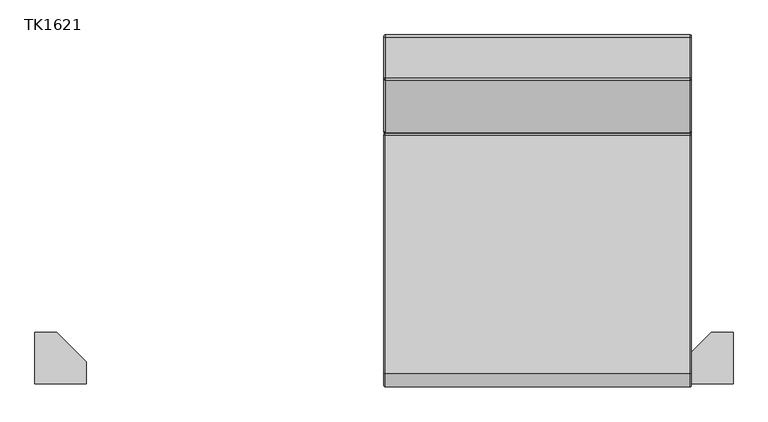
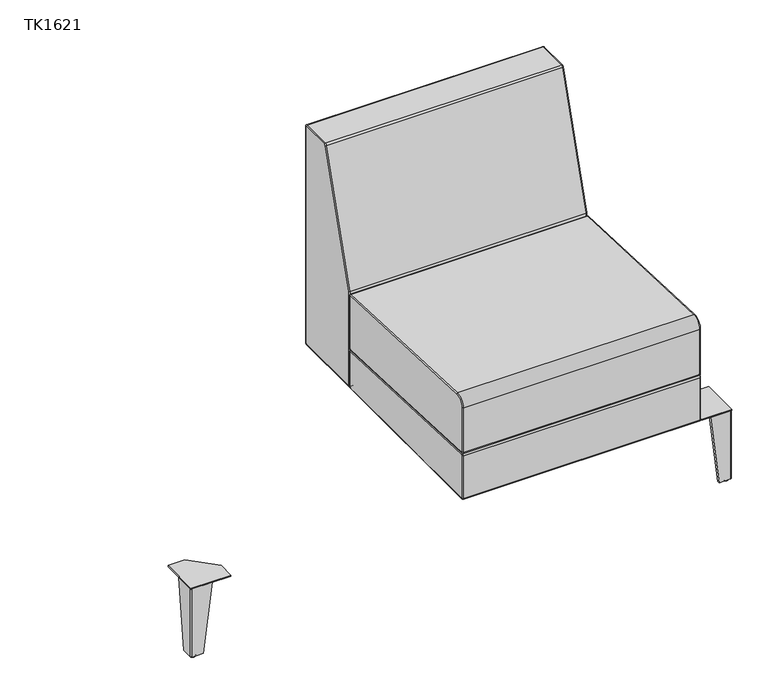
"""IFC4 building model written with IfcOpenShell, lengths in millimetres: furniture geometry, JSI-Teekan-Two_Seat_Lounge : TK1621."""

from ifc_helpers import new_model, si_unit, point, frame, origin, place, context, project, spatial, polyline, circle_curve, ellipse_curve, trimmed, outline, extrude, source, transform, mapped, element, save
from ifc_brep_helpers import plane_surface, cylinder_surface, revolved_surface, spline_surface, advanced_brep


def tk1621_2512d733(model_context):
    return source(origin(), model_context, "Body", "SolidModel", [
        advanced_brep(
        [(607.21875, 148.7693192, 295.6513391), (607.21875, 153.733973, 300.4095468), (609.6, 151.352723, 300.4095468), (609.6, 148.8703961, 298.0304429), (2.38125, 148.7693192, 295.6513391), (2.38125, 153.733973, 300.4095468), (0.0, 148.8703961, 298.0304429), (0.0, 151.352723, 300.4095468), (609.6, -344.5512855, 318.9936072), (607.21875, -344.6523625, 316.6145034), (2.38125, -344.6523625, 316.6145034), (0.0, -344.5512855, 318.9936072), (607.21875, -322.7527962, 467.50355), (609.6, -322.8538731, 465.1244462), (609.6, 149.0725499, 445.0745142), (607.21875, 149.1736269, 447.4536181), (2.38125, 149.1736269, 447.4536181), (2.38125, -322.7527962, 467.50355), (0.0, 149.0725499, 445.0745142), (0.0, -322.8538731, 465.1244462), (609.6, 151.352723, 442.6954104), (607.21875, 153.733973, 442.6954104), (2.38125, 153.733973, 442.6954104), (0.0, 151.352723, 442.6954104), (609.6, -346.8497, 321.3917439), (607.21875, -349.23095, 321.3917439), (2.38125, -349.23095, 321.3917439), (0.0, -346.8497, 321.3917439), (609.6, -346.8497, 442.1264425), (607.21875, -349.23095, 442.1264425), (2.38125, -349.23095, 442.1264425), (0.0, -346.8497, 442.1264425)],
        [
            (0, 1, circle_curve(frame((607.21875, 148.971473, 300.4095468), z_axis=(1.0, 0.0, 0.0), x_axis=(0.0, 1.0, 0.0)), 4.7625)),
            (1, 2, circle_curve(frame((607.21875, 151.352723, 300.4095468), z_axis=(0.0, 0.0, -1.0), x_axis=(1.0, 0.0, 0.0)), 2.38125)),
            (2, 3, circle_curve(frame((609.6, 148.971473, 300.4095468), z_axis=(-1.0, 0.0, 0.0), x_axis=(0.0, 1.0, 0.0)), 2.38125)),
            (3, 0, circle_curve(frame((607.21875, 148.8703961, 298.0304429), z_axis=(0.0, 0.9990987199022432, -0.04244700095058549), x_axis=(1.0, 0.0, 0.0)), 2.38125)),
            (0, 4),
            (4, 5, circle_curve(frame((2.38125, 148.971473, 300.4095468), z_axis=(1.0, 0.0, 0.0), x_axis=(0.0, 1.0, 0.0)), 4.7625)),
            (5, 1),
            (4, 6, circle_curve(frame((2.38125, 148.8703961, 298.0304429), z_axis=(0.0, 0.9990987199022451, -0.0424470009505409), x_axis=(1.0, 0.0, 0.0)), 2.38125)),
            (6, 7, circle_curve(frame((0.0, 148.971473, 300.4095468), z_axis=(1.0, 0.0, 0.0), x_axis=(0.0, 1.0, 0.0)), 2.38125)),
            (7, 5, circle_curve(frame((2.38125, 151.352723, 300.4095468), z_axis=(0.0, 0.0, -1.0), x_axis=(1.0, 0.0, 0.0)), 2.38125)),
            (3, 8),
            (8, 9, circle_curve(frame((607.21875, -344.5512855, 318.9936072), z_axis=(0.0, 0.9990987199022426, -0.04244700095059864), x_axis=(1.0, 0.0, 0.0)), 2.38125)),
            (9, 0),
            (9, 10),
            (10, 4),
            (10, 11, circle_curve(frame((2.38125, -344.5512855, 318.9936072), z_axis=(0.0, 0.9990987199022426, -0.04244700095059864), x_axis=(1.0, 0.0, 0.0)), 2.38125)),
            (11, 6),
            (12, 13, circle_curve(frame((607.21875, -322.8538731, 465.1244462), z_axis=(0.0, 0.9990987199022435, -0.0424470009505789), x_axis=(1.0, 0.0, 0.0)), 2.38125)),
            (13, 14),
            (14, 15, circle_curve(frame((607.21875, 149.0725499, 445.0745142), z_axis=(0.0, -0.9990987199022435, 0.0424470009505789), x_axis=(1.0, 0.0, 0.0)), 2.38125)),
            (15, 12),
            (15, 16),
            (16, 17),
            (17, 12),
            (16, 18, circle_curve(frame((2.38125, 149.0725499, 445.0745142), z_axis=(0.0, -0.9990987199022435, 0.0424470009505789), x_axis=(1.0, 0.0, 0.0)), 2.38125)),
            (18, 19),
            (19, 17, circle_curve(frame((2.38125, -322.8538731, 465.1244462), z_axis=(0.0, 0.9990987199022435, -0.0424470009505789), x_axis=(1.0, 0.0, 0.0)), 2.38125)),
            (14, 20, circle_curve(frame((609.6, 148.971473, 442.6954104), z_axis=(-1.0, 0.0, 0.0), x_axis=(0.0, 0.04244700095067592, 0.9990987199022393)), 2.38125)),
            (20, 21, circle_curve(frame((607.21875, 151.352723, 442.6954104), z_axis=(0.0, 0.0, 0.9999999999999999), x_axis=(1.0, 0.0, 0.0)), 2.38125)),
            (21, 15, circle_curve(frame((607.21875, 148.971473, 442.6954104), z_axis=(1.0, 0.0, 0.0), x_axis=(0.0, 0.04244700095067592, 0.9990987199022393)), 4.7625)),
            (21, 22),
            (22, 16, circle_curve(frame((2.38125, 148.971473, 442.6954104), z_axis=(1.0, 0.0, 0.0), x_axis=(0.0, 0.04244700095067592, 0.9990987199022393)), 4.7625)),
            (22, 23, circle_curve(frame((2.38125, 151.352723, 442.6954104), z_axis=(0.0, 0.0, 0.9999999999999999), x_axis=(1.0, 0.0, 0.0)), 2.38125)),
            (23, 18, circle_curve(frame((0.0, 148.971473, 442.6954104), z_axis=(1.0, 0.0, 0.0), x_axis=(0.0, 0.04244700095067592, 0.9990987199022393)), 2.38125)),
            (1, 21),
            (20, 2),
            (5, 22),
            (7, 23),
            (8, 24, circle_curve(frame((609.6, -344.4494, 321.3917439), z_axis=(-1.0, 0.0, 0.0), x_axis=(0.0, -0.04244700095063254, -0.9990987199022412)), 2.4003)),
            (24, 25, circle_curve(frame((607.21875, -346.8497, 321.3917439), z_axis=(0.0, 0.0, -1.0), x_axis=(1.0, 0.0, 0.0)), 2.38125)),
            (25, 9, circle_curve(frame((607.21875, -344.4494, 321.3917439), z_axis=(1.0, 0.0, 0.0), x_axis=(0.0, -0.04244700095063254, -0.9990987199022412)), 4.78155)),
            (25, 26),
            (26, 10, circle_curve(frame((2.38125, -344.4494, 321.3917439), z_axis=(1.0, 0.0, 0.0), x_axis=(0.0, -0.04244700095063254, -0.9990987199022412)), 4.78155)),
            (26, 27, circle_curve(frame((2.38125, -346.8497, 321.3917439), z_axis=(0.0, 0.0, -1.0), x_axis=(1.0, 0.0, 0.0)), 2.38125)),
            (27, 11, circle_curve(frame((0.0, -344.4494, 321.3917439), z_axis=(1.0, 0.0, 0.0), x_axis=(0.0, -0.04244700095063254, -0.9990987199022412)), 2.4003)),
            (24, 28),
            (28, 29, circle_curve(frame((607.21875, -346.8497, 442.1264425), z_axis=(0.0, 0.0, -1.0), x_axis=(1.0, 0.0, 0.0)), 2.38125)),
            (29, 25),
            (29, 30),
            (30, 26),
            (30, 31, circle_curve(frame((2.38125, -346.8497, 442.1264425), z_axis=(0.0, 0.0, -1.0), x_axis=(1.0, 0.0, 0.0)), 2.38125)),
            (31, 27),
            (13, 28, circle_curve(frame((609.6, -323.83095, 442.1264425), z_axis=(1.0, 0.0, 0.0), x_axis=(0.0, -1.0, 0.0)), 23.01875)),
            (12, 29, circle_curve(frame((607.21875, -323.83095, 442.1264425), z_axis=(1.0, 0.0, 0.0), x_axis=(0.0, -1.0, 0.0)), 25.4)),
            (17, 30, circle_curve(frame((2.38125, -323.83095, 442.1264425), z_axis=(1.0, 0.0, 0.0), x_axis=(0.0, -1.0, 0.0)), 25.4)),
            (19, 31, circle_curve(frame((0.0, -323.83095, 442.1264425), z_axis=(1.0, 0.0, 0.0), x_axis=(0.0, -1.0, 0.0)), 23.01875)),
        ],
        [
            revolved_surface(trimmed(ellipse_curve(frame((607.21875, 151.352723, 300.4095468), z_axis=(0.0, 0.0, 1.0), x_axis=(1.0, 0.0, 0.0)), 2.38125, 2.38125), [point((609.6, 151.352723, 300.4095468))], [point((607.21875, 153.733973, 300.4095468))], True, "CARTESIAN"), (304.8, 148.971473, 300.4095468), (-1.0, 0.0, 0.0)),
            cylinder_surface(frame((304.8, 148.971473, 300.4095468), z_axis=(-1.0, 0.0, 0.0), x_axis=(0.0, 1.0, 0.0)), 4.7625),
            revolved_surface(trimmed(ellipse_curve(frame((2.38125, 151.352723, 300.4095468), z_axis=(0.0, 0.0, 1.0), x_axis=(1.0, 0.0, 0.0)), 2.38125, 2.38125), [point((2.38125, 153.733973, 300.4095468))], [point((0.0, 151.352723, 300.4095468))], True, "CARTESIAN"), (304.8, 148.971473, 300.4095468), (-1.0, 0.0, 0.0)),
            cylinder_surface(frame((607.21875, 148.8703961, 298.0304429), z_axis=(0.0, 0.9990987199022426, -0.04244700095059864), x_axis=(1.0, 0.0, 0.0)), 2.38125),
            plane_surface(frame((607.21875, 148.7693192, 295.6513391), z_axis=(0.0, -0.04244700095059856, -0.9990987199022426), x_axis=(0.0, -0.9990987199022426, 0.04244700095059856))),
            cylinder_surface(frame((2.38125, 148.8703961, 298.0304429), z_axis=(0.0, 0.9990987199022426, -0.04244700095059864), x_axis=(1.0, 0.0, 0.0)), 2.38125),
            cylinder_surface(frame((607.21875, -322.8538731, 465.1244462), z_axis=(0.0, -0.9990987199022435, 0.0424470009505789), x_axis=(1.0, 0.0, 0.0)), 2.38125),
            plane_surface(frame((607.21875, -322.7527962, 467.50355), z_axis=(0.0, 0.04244700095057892, 0.9990987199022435), x_axis=(0.0, 0.9990987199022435, -0.04244700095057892))),
            cylinder_surface(frame((2.38125, -322.8538731, 465.1244462), z_axis=(0.0, -0.9990987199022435, 0.0424470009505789), x_axis=(1.0, 0.0, 0.0)), 2.38125),
            revolved_surface(trimmed(ellipse_curve(frame((607.21875, 149.0725499, 445.0745142), z_axis=(0.0, -0.9990987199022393, 0.04244700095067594), x_axis=(1.0, 0.0, 0.0)), 2.38125, 2.38125), [point((609.6, 149.0725499, 445.0745142))], [point((607.21875, 149.1736269, 447.4536181))], True, "CARTESIAN"), (304.8, 148.971473, 442.6954104), (-1.0, 0.0, 0.0)),
            cylinder_surface(frame((304.8, 148.971473, 442.6954104), z_axis=(-1.0, 0.0, 0.0), x_axis=(0.0, 0.04244700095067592, 0.9990987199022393)), 4.7625),
            revolved_surface(trimmed(ellipse_curve(frame((2.38125, 149.0725499, 445.0745142), z_axis=(0.0, -0.9990987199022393, 0.04244700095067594), x_axis=(1.0, 0.0, 0.0)), 2.38125, 2.38125), [point((2.38125, 149.1736269, 447.4536181))], [point((0.0, 149.0725499, 445.0745142))], True, "CARTESIAN"), (304.8, 148.971473, 442.6954104), (-1.0, 0.0, 0.0)),
            cylinder_surface(frame((607.21875, 151.352723, 442.6954104), z_axis=(0.0, 0.0, 1.0), x_axis=(1.0, 0.0, 0.0)), 2.38125),
            plane_surface(frame((607.21875, 153.733973, 442.6954104), z_axis=(0.0, 1.0, 0.0), x_axis=(0.0, 0.0, -1.0))),
            cylinder_surface(frame((2.38125, 151.352723, 442.6954104), z_axis=(0.0, 0.0, 1.0), x_axis=(1.0, 0.0, 0.0)), 2.38125),
            revolved_surface(trimmed(ellipse_curve(frame((607.21875, -344.5512855, 318.9936072), z_axis=(0.0, 0.9990987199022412, -0.042447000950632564), x_axis=(1.0, 0.0, 0.0)), 2.38125, 2.38125), [point((609.6, -344.5512855, 318.9936072))], [point((607.21875, -344.6523625, 316.6145034))], True, "CARTESIAN"), (304.8, -344.4494, 321.3917439), (-1.0, 0.0, 0.0)),
            cylinder_surface(frame((304.8, -344.4494, 321.3917439), z_axis=(-1.0, 0.0, 0.0), x_axis=(0.0, -0.04244700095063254, -0.9990987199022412)), 4.78155),
            revolved_surface(trimmed(ellipse_curve(frame((2.38125, -344.5512855, 318.9936072), z_axis=(0.0, 0.9990987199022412, -0.042447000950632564), x_axis=(1.0, 0.0, 0.0)), 2.38125, 2.38125), [point((2.38125, -344.6523625, 316.6145034))], [point((0.0, -344.5512855, 318.9936072))], True, "CARTESIAN"), (304.8, -344.4494, 321.3917439), (-1.0, 0.0, 0.0)),
            cylinder_surface(frame((607.21875, -346.8497, 321.3917439), z_axis=(0.0, 0.0, -1.0), x_axis=(1.0, 0.0, 0.0)), 2.38125),
            plane_surface(frame((607.21875, -349.23095, 321.3917439), z_axis=(0.0, -1.0, 0.0), x_axis=(0.0, 0.0, 1.0))),
            cylinder_surface(frame((2.38125, -346.8497, 321.3917439), z_axis=(0.0, 0.0, -1.0), x_axis=(1.0, 0.0, 0.0)), 2.38125),
            plane_surface(frame((609.6, -323.83095, 442.1264425), z_axis=(1.0, 0.0, 0.0), x_axis=(0.0, -1.0, 0.0))),
            revolved_surface(trimmed(ellipse_curve(frame((607.21875, -346.8497, 442.1264425), z_axis=(0.0, 0.0, -1.0), x_axis=(1.0, 0.0, 0.0)), 2.38125, 2.38125), [point((609.6, -346.8497, 442.1264425))], [point((607.21875, -349.23095, 442.1264425))], True, "CARTESIAN"), (304.8, -323.83095, 442.1264425), (-1.0, 0.0, 0.0)),
            cylinder_surface(frame((304.8, -323.83095, 442.1264425), z_axis=(-1.0, 0.0, 0.0), x_axis=(0.0, -1.0, 0.0)), 25.4),
            revolved_surface(trimmed(ellipse_curve(frame((2.38125, -346.8497, 442.1264425), z_axis=(0.0, 0.0, -1.0), x_axis=(1.0, 0.0, 0.0)), 2.38125, 2.38125), [point((2.38125, -349.23095, 442.1264425))], [point((0.0, -346.8497, 442.1264425))], True, "CARTESIAN"), (304.8, -323.83095, 442.1264425), (-1.0, 0.0, 0.0)),
            plane_surface(frame((0.0, -323.83095, 442.1264425), z_axis=(-1.0, 0.0, 0.0), x_axis=(0.0, -1.0, 0.0))),
        ],
        [
            (0, [[1, 2, 3, 4]]),
            (1, [[-1, 5, 6, 7]]),
            (2, [[-6, 8, 9, 10]]),
            (3, [[-4, 11, 12, 13]]),
            (4, [[-5, -13, 14, 15]]),
            (5, [[-8, -15, 16, 17]]),
            (6, [[18, 19, 20, 21]]),
            (7, [[-21, 22, 23, 24]]),
            (8, [[-23, 25, 26, 27]]),
            (9, [[-20, 28, 29, 30]]),
            (10, [[-22, -30, 31, 32]]),
            (11, [[-25, -32, 33, 34]]),
            (12, [[-2, 35, -29, 36]]),
            (13, [[-7, 37, -31, -35]]),
            (14, [[-10, 38, -33, -37]]),
            (15, [[-12, 39, 40, 41]]),
            (16, [[-14, -41, 42, 43]]),
            (17, [[-16, -43, 44, 45]]),
            (18, [[-40, 46, 47, 48]]),
            (19, [[-42, -48, 49, 50]]),
            (20, [[-44, -50, 51, 52]]),
            (21, [[-3, -36, -28, -19, 53, -46, -39, -11]]),
            (22, [[-18, 54, -47, -53]]),
            (23, [[-24, 55, -49, -54]]),
            (24, [[-27, 56, -51, -55]]),
            (25, [[-9, -17, -45, -52, -56, -26, -34, -38]]),
        ],
    ),
        advanced_brep(
        [(2.38125, -349.25, 197.5346851), (607.21875, -349.25, 197.5346851), (607.21875, -349.25, 311.8407029), (2.38125, -349.25, 311.8407029), (0.0, -346.86875, 311.8407029), (0.0, -346.86875, 197.5346851), (609.6, -346.86875, 197.5346851), (609.6, -346.86875, 311.8407029), (2.38125, -344.2853462, 316.5989106), (607.21875, -344.2853462, 316.5989106), (607.21875, 149.169864, 295.6343219), (2.38125, 149.169864, 295.6343219), (0.0, 149.0687871, 293.255218), (0.0, -344.3864231, 314.2198068), (609.6, -344.3864231, 314.2198068), (609.6, 149.0687871, 293.255218), (607.21875, 153.7302102, 290.8761142), (2.38125, 153.7302102, 290.8761142), (0.0, 151.3489602, 290.8761142), (609.6, 151.3489602, 290.8761142), (607.21875, 153.7302102, 197.5346851), (2.38125, 153.7302102, 197.5346851), (0.0, 151.3489602, 197.5346851), (609.6, 151.3489602, 197.5346851), (607.21875, 148.9677102, 192.7721851), (2.38125, 148.9677102, 192.7721851), (0.0, 148.9677102, 195.1534351), (609.6, 148.9677102, 195.1534351), (607.21875, -344.4875, 192.7721851), (2.38125, -344.4875, 192.7721851), (0.0, -344.4875, 195.1534351), (609.6, -344.4875, 195.1534351)],
        [
            (0, 1),
            (1, 2),
            (2, 3),
            (3, 0),
            (3, 4, circle_curve(frame((2.38125, -346.86875, 311.8407029), z_axis=(0.0, 0.0, -1.0), x_axis=(0.0, -1.0, 0.0)), 2.38125)),
            (4, 5),
            (5, 0, circle_curve(frame((2.38125, -346.86875, 197.5346851), z_axis=(0.0, 0.0, 1.0), x_axis=(0.0, -1.0, 0.0)), 2.38125)),
            (1, 6, circle_curve(frame((607.21875, -346.86875, 197.5346851), z_axis=(0.0, 0.0, 1.0), x_axis=(0.0, -1.0, 0.0)), 2.38125)),
            (6, 7),
            (7, 2, circle_curve(frame((607.21875, -346.86875, 311.8407029), z_axis=(0.0, 0.0, -1.0), x_axis=(0.0, -1.0, 0.0)), 2.38125)),
            (8, 9),
            (9, 10),
            (10, 11),
            (11, 8),
            (11, 12, circle_curve(frame((2.38125, 149.0687871, 293.255218), z_axis=(0.0, -0.9990987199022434, 0.04244700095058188), x_axis=(0.0, 0.04244700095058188, 0.9990987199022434)), 2.38125)),
            (12, 13),
            (13, 8, circle_curve(frame((2.38125, -344.3864231, 314.2198068), z_axis=(0.0, 0.9990987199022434, -0.04244700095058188), x_axis=(0.0, 0.04244700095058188, 0.9990987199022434)), 2.38125)),
            (9, 14, circle_curve(frame((607.21875, -344.3864231, 314.2198068), z_axis=(0.0, 0.9990987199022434, -0.04244700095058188), x_axis=(0.0, 0.04244700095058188, 0.9990987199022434)), 2.38125)),
            (14, 15),
            (15, 10, circle_curve(frame((607.21875, 149.0687871, 293.255218), z_axis=(0.0, -0.9990987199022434, 0.04244700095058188), x_axis=(0.0, 0.04244700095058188, 0.9990987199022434)), 2.38125)),
            (10, 16, circle_curve(frame((607.21875, 148.9677102, 290.8761142), z_axis=(-1.0, 0.0, 0.0), x_axis=(0.0, 0.0424470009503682, 0.9990987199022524)), 4.7625)),
            (16, 17),
            (17, 11, circle_curve(frame((2.38125, 148.9677102, 290.8761142), z_axis=(1.0, 0.0, 0.0), x_axis=(0.0, 0.0424470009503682, 0.9990987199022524)), 4.7625)),
            (17, 18, circle_curve(frame((2.38125, 151.3489602, 290.8761142), z_axis=(0.0, 0.0, 1.0), x_axis=(0.0, 1.0, 0.0)), 2.38125)),
            (18, 12, circle_curve(frame((0.0, 148.9677102, 290.8761142), z_axis=(1.0, 0.0, 0.0), x_axis=(0.0, 0.0424470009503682, 0.9990987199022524)), 2.38125)),
            (15, 19, circle_curve(frame((609.6, 148.9677102, 290.8761142), z_axis=(-1.0, 0.0, 0.0), x_axis=(0.0, 0.0424470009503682, 0.9990987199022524)), 2.38125)),
            (19, 16, circle_curve(frame((607.21875, 151.3489602, 290.8761142), z_axis=(0.0, 0.0, 1.0), x_axis=(0.0, 1.0, 0.0)), 2.38125)),
            (16, 20),
            (20, 21),
            (21, 17),
            (21, 22, circle_curve(frame((2.38125, 151.3489602, 197.5346851), z_axis=(0.0, 0.0, 1.0), x_axis=(0.0, 1.0, 0.0)), 2.38125)),
            (22, 18),
            (19, 23),
            (23, 20, circle_curve(frame((607.21875, 151.3489602, 197.5346851), z_axis=(0.0, 0.0, 1.0), x_axis=(0.0, 1.0, 0.0)), 2.38125)),
            (20, 24, circle_curve(frame((607.21875, 148.9677102, 197.5346851), z_axis=(-1.0, 0.0, 0.0), x_axis=(0.0, 1.0, 0.0)), 4.7625)),
            (24, 25),
            (25, 21, circle_curve(frame((2.38125, 148.9677102, 197.5346851), z_axis=(1.0, 0.0, 0.0), x_axis=(0.0, 1.0, 0.0)), 4.7625)),
            (25, 26, circle_curve(frame((2.38125, 148.9677102, 195.1534351), z_axis=(0.0, 1.0, 0.0), x_axis=(0.0, 0.0, -1.0)), 2.38125)),
            (26, 22, circle_curve(frame((0.0, 148.9677102, 197.5346851), z_axis=(1.0, 0.0, 0.0), x_axis=(0.0, 1.0, 0.0)), 2.38125)),
            (23, 27, circle_curve(frame((609.6, 148.9677102, 197.5346851), z_axis=(-1.0, 0.0, 0.0), x_axis=(0.0, 1.0, 0.0)), 2.38125)),
            (27, 24, circle_curve(frame((607.21875, 148.9677102, 195.1534351), z_axis=(0.0, 1.0, 0.0), x_axis=(0.0, 0.0, -1.0)), 2.38125)),
            (24, 28),
            (28, 29),
            (29, 25),
            (29, 30, circle_curve(frame((2.38125, -344.4875, 195.1534351), z_axis=(0.0, 1.0, 0.0), x_axis=(0.0, 0.0, -1.0)), 2.38125)),
            (30, 26),
            (27, 31),
            (31, 28, circle_curve(frame((607.21875, -344.4875, 195.1534351), z_axis=(0.0, 1.0, 0.0), x_axis=(0.0, 0.0, -1.0)), 2.38125)),
            (0, 29, circle_curve(frame((2.38125, -344.4875, 197.5346851), z_axis=(1.0, 0.0, 0.0), x_axis=(0.0, 0.0, -1.0)), 4.7625)),
            (28, 1, circle_curve(frame((607.21875, -344.4875, 197.5346851), z_axis=(-1.0, 0.0, 0.0), x_axis=(0.0, 0.0, -1.0)), 4.7625)),
            (5, 30, circle_curve(frame((0.0, -344.4875, 197.5346851), z_axis=(1.0, 0.0, 0.0), x_axis=(0.0, 0.0, -1.0)), 2.38125)),
            (31, 6, circle_curve(frame((609.6, -344.4875, 197.5346851), z_axis=(-1.0, 0.0, 0.0), x_axis=(0.0, 0.0, -1.0)), 2.38125)),
            (2, 9, circle_curve(frame((607.21875, -344.4875, 311.8407029), z_axis=(-1.0, 0.0, 0.0), x_axis=(0.0, -1.0, 0.0)), 4.7625)),
            (8, 3, circle_curve(frame((2.38125, -344.4875, 311.8407029), z_axis=(1.0, 0.0, 0.0), x_axis=(0.0, -1.0, 0.0)), 4.7625)),
            (13, 4, circle_curve(frame((0.0, -344.4875, 311.8407029), z_axis=(1.0, 0.0, 0.0), x_axis=(0.0, -1.0, 0.0)), 2.38125)),
            (14, 7, circle_curve(frame((609.6, -344.4875, 311.8407029), z_axis=(1.0, 0.0, 0.0), x_axis=(0.0, -1.0, 0.0)), 2.38125)),
        ],
        [
            plane_surface(frame((607.21875, -349.25, 197.5346851), z_axis=(0.0, -1.0, 0.0), x_axis=(0.0, 0.0, 1.0))),
            cylinder_surface(frame((2.38125, -346.86875, 197.5346851), z_axis=(0.0, 0.0, -1.0), x_axis=(0.0, -1.0, 0.0)), 2.38125),
            cylinder_surface(frame((607.21875, -346.86875, 197.5346851), z_axis=(0.0, 0.0, -1.0), x_axis=(0.0, -1.0, 0.0)), 2.38125),
            plane_surface(frame((607.21875, -344.2853462, 316.5989106), z_axis=(0.0, 0.04244700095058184, 0.9990987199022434), x_axis=(0.0, 0.9990987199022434, -0.04244700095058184))),
            cylinder_surface(frame((2.38125, -344.3864231, 314.2198068), z_axis=(0.0, -0.9990987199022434, 0.04244700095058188), x_axis=(0.0, 0.04244700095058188, 0.9990987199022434)), 2.38125),
            cylinder_surface(frame((607.21875, -344.3864231, 314.2198068), z_axis=(0.0, -0.9990987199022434, 0.04244700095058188), x_axis=(0.0, 0.04244700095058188, 0.9990987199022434)), 2.38125),
            cylinder_surface(frame((304.8, 148.9677102, 290.8761142), z_axis=(-1.0, 0.0, 0.0), x_axis=(0.0, 0.0424470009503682, 0.9990987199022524)), 4.7625),
            revolved_surface(trimmed(ellipse_curve(frame((2.38125, 149.0687871, 293.255218), z_axis=(0.0, -0.9990987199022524, 0.042447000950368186), x_axis=(0.0, 0.042447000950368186, 0.9990987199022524)), 2.38125, 2.38125), [point((2.38125, 149.169864, 295.6343219))], [point((0.0, 149.0687871, 293.255218))], True, "CARTESIAN"), (304.8, 148.9677102, 290.8761142), (-1.0, 0.0, 0.0)),
            revolved_surface(trimmed(ellipse_curve(frame((607.21875, 149.0687871, 293.255218), z_axis=(0.0, -0.9990987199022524, 0.042447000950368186), x_axis=(0.0, 0.042447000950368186, 0.9990987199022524)), 2.38125, 2.38125), [point((609.6, 149.0687871, 293.255218))], [point((607.21875, 149.169864, 295.6343219))], True, "CARTESIAN"), (304.8, 148.9677102, 290.8761142), (-1.0, 0.0, 0.0)),
            plane_surface(frame((607.21875, 153.7302102, 290.8761142), z_axis=(0.0, 1.0, 0.0), x_axis=(0.0, 0.0, -1.0))),
            cylinder_surface(frame((2.38125, 151.3489602, 290.8761142), z_axis=(0.0, 0.0, 1.0), x_axis=(0.0, 1.0, 0.0)), 2.38125),
            cylinder_surface(frame((607.21875, 151.3489602, 290.8761142), z_axis=(0.0, 0.0, 1.0), x_axis=(0.0, 1.0, 0.0)), 2.38125),
            cylinder_surface(frame((304.8, 148.9677102, 197.5346851), z_axis=(-1.0, 0.0, 0.0), x_axis=(0.0, 1.0, 0.0)), 4.7625),
            revolved_surface(trimmed(ellipse_curve(frame((2.38125, 151.3489602, 197.5346851), z_axis=(0.0, 0.0, 1.0), x_axis=(0.0, 1.0, 0.0)), 2.38125, 2.38125), [point((2.38125, 153.7302102, 197.5346851))], [point((0.0, 151.3489602, 197.5346851))], True, "CARTESIAN"), (304.8, 148.9677102, 197.5346851), (-1.0, 0.0, 0.0)),
            revolved_surface(trimmed(ellipse_curve(frame((607.21875, 151.3489602, 197.5346851), z_axis=(0.0, 0.0, 1.0), x_axis=(0.0, 1.0, 0.0)), 2.38125, 2.38125), [point((609.6, 151.3489602, 197.5346851))], [point((607.21875, 153.7302102, 197.5346851))], True, "CARTESIAN"), (304.8, 148.9677102, 197.5346851), (-1.0, 0.0, 0.0)),
            plane_surface(frame((607.21875, 148.9677102, 192.7721851), z_axis=(0.0, 0.0, -1.0), x_axis=(0.0, -1.0, 0.0))),
            cylinder_surface(frame((2.38125, 148.9677102, 195.1534351), z_axis=(0.0, 1.0, 0.0), x_axis=(0.0, 0.0, -1.0)), 2.38125),
            cylinder_surface(frame((607.21875, 148.9677102, 195.1534351), z_axis=(0.0, 1.0, 0.0), x_axis=(0.0, 0.0, -1.0)), 2.38125),
            cylinder_surface(frame((304.8, -344.4875, 197.5346851), z_axis=(-1.0, 0.0, 0.0), x_axis=(0.0, 0.0, -1.0)), 4.7625),
            revolved_surface(trimmed(ellipse_curve(frame((2.38125, -344.4875, 195.1534351), z_axis=(0.0, 1.0, 0.0), x_axis=(0.0, 0.0, -1.0)), 2.38125, 2.38125), [point((2.38125, -344.4875, 192.7721851))], [point((0.0, -344.4875, 195.1534351))], True, "CARTESIAN"), (304.8, -344.4875, 197.5346851), (-1.0, 0.0, 0.0)),
            revolved_surface(trimmed(ellipse_curve(frame((607.21875, -344.4875, 195.1534351), z_axis=(0.0, 1.0, 0.0), x_axis=(0.0, 0.0, -1.0)), 2.38125, 2.38125), [point((609.6, -344.4875, 195.1534351))], [point((607.21875, -344.4875, 192.7721851))], True, "CARTESIAN"), (304.8, -344.4875, 197.5346851), (-1.0, 0.0, 0.0)),
            cylinder_surface(frame((304.8, -344.4875, 311.8407029), z_axis=(-1.0, 0.0, 0.0), x_axis=(0.0, -1.0, 0.0)), 4.7625),
            revolved_surface(trimmed(ellipse_curve(frame((2.38125, -346.86875, 311.8407029), z_axis=(0.0, 0.0, -1.0), x_axis=(0.0, -1.0, 0.0)), 2.38125, 2.38125), [point((2.38125, -349.25, 311.8407029))], [point((0.0, -346.86875, 311.8407029))], True, "CARTESIAN"), (304.8, -344.4875, 311.8407029), (-1.0, 0.0, 0.0)),
            plane_surface(frame((0.0, -344.4875, 311.8407029), z_axis=(-1.0, 0.0, 0.0), x_axis=(0.0, -1.0, 0.0))),
            plane_surface(frame((609.6, -344.4875, 311.8407029), z_axis=(1.0, 0.0, 0.0), x_axis=(0.0, -1.0, 0.0))),
            revolved_surface(trimmed(ellipse_curve(frame((607.21875, -346.86875, 311.8407029), z_axis=(0.0, 0.0, -1.0), x_axis=(0.0, -1.0, 0.0)), 2.38125, 2.38125), [point((609.6, -346.86875, 311.8407029))], [point((607.21875, -349.25, 311.8407029))], True, "CARTESIAN"), (304.8, -344.4875, 311.8407029), (-1.0, 0.0, 0.0)),
        ],
        [
            (0, [[1, 2, 3, 4]]),
            (1, [[-4, 5, 6, 7]]),
            (2, [[-2, 8, 9, 10]]),
            (3, [[11, 12, 13, 14]]),
            (4, [[-14, 15, 16, 17]]),
            (5, [[-12, 18, 19, 20]]),
            (6, [[-13, 21, 22, 23]]),
            (7, [[-15, -23, 24, 25]]),
            (8, [[-20, 26, 27, -21]]),
            (9, [[-22, 28, 29, 30]]),
            (10, [[-24, -30, 31, 32]]),
            (11, [[-27, 33, 34, -28]]),
            (12, [[-29, 35, 36, 37]]),
            (13, [[-31, -37, 38, 39]]),
            (14, [[-34, 40, 41, -35]]),
            (15, [[-36, 42, 43, 44]]),
            (16, [[-38, -44, 45, 46]]),
            (17, [[-41, 47, 48, -42]]),
            (18, [[-1, 49, -43, 50]]),
            (19, [[-7, 51, -45, -49]]),
            (20, [[-8, -50, -48, 52]]),
            (21, [[-3, 53, -11, 54]]),
            (22, [[-5, -54, -17, 55]]),
            (23, [[-6, -55, -16, -25, -32, -39, -46, -51]]),
            (24, [[-9, -52, -47, -40, -33, -26, -19, 56]]),
            (25, [[-10, -56, -18, -53]]),
        ],
    ),
        advanced_brep(
        [(609.6, 261.4671324, 783.3496278), (609.6, 263.7394056, 785.01875), (607.21875, 263.7394056, 787.4), (607.21875, 259.1948592, 784.0617556), (2.38125, 259.1948592, 784.0617556), (2.38125, 263.7394056, 787.4), (0.0, 263.7394056, 785.01875), (0.0, 261.4671324, 783.3496278), (607.21875, 155.07802, 451.8434221), (609.6, 157.3502932, 451.1312943), (0.0, 157.3502932, 451.1312943), (2.38125, 155.07802, 451.8434221), (607.21875, 153.733973, 443.0605128), (609.6, 156.115223, 443.0605128), (0.0, 156.115223, 443.0605128), (2.38125, 153.733973, 443.0605128), (607.21875, 153.733973, 197.5346851), (609.6, 156.115223, 197.5346851), (0.0, 156.115223, 197.5346851), (2.38125, 153.733973, 197.5346851), (607.21875, 158.496473, 192.7721851), (609.6, 158.496473, 195.1534351), (0.0, 158.496473, 195.1534351), (2.38125, 158.496473, 192.7721851), (607.21875, 344.4875, 192.7721851), (609.6, 344.4875, 195.1534351), (0.0, 344.4875, 195.1534351), (2.38125, 344.4875, 192.7721851), (607.21875, 349.25, 197.5346851), (609.6, 346.86875, 197.5346851), (0.0, 346.86875, 197.5346851), (2.38125, 349.25, 197.5346851), (607.21875, 349.25, 782.6375), (609.6, 346.86875, 782.6375), (0.0, 346.86875, 782.6375), (2.38125, 349.25, 782.6375), (607.21875, 344.4875, 787.4), (609.6, 344.4875, 785.01875), (0.0, 344.4875, 785.01875), (2.38125, 344.4875, 787.4)],
        [
            (0, 1, circle_curve(frame((609.6, 263.7394056, 782.6375), z_axis=(-1.0, 0.0, 0.0), x_axis=(0.0, 0.0, 1.0)), 2.38125)),
            (1, 2, circle_curve(frame((607.21875, 263.7394056, 785.01875), z_axis=(0.0, -1.0, 0.0), x_axis=(0.0, 0.0, -1.0)), 2.38125)),
            (2, 3, circle_curve(frame((607.21875, 263.7394056, 782.6375), z_axis=(1.0, 0.0, 0.0), x_axis=(0.0, 0.0, 1.0)), 4.7625)),
            (3, 0, circle_curve(frame((607.21875, 261.4671324, 783.3496278), z_axis=(0.0, 0.29905628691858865, 0.9542354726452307), x_axis=(0.0, 0.9542354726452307, -0.29905628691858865)), 2.38125)),
            (4, 5, circle_curve(frame((2.38125, 263.7394056, 782.6375), z_axis=(-1.0, 0.0, 0.0), x_axis=(0.0, 0.0, 1.0)), 4.7625)),
            (5, 6, circle_curve(frame((2.38125, 263.7394056, 785.01875), z_axis=(0.0, -1.0, 0.0), x_axis=(0.0, 0.0, -1.0)), 2.38125)),
            (6, 7, circle_curve(frame((0.0, 263.7394056, 782.6375), z_axis=(1.0, 0.0, 0.0), x_axis=(0.0, 0.0, 1.0)), 2.38125)),
            (7, 4, circle_curve(frame((2.38125, 261.4671324, 783.3496278), z_axis=(0.0, 0.2990562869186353, 0.954235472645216), x_axis=(0.0, 0.954235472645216, -0.2990562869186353)), 2.38125)),
            (2, 5),
            (4, 3),
            (3, 8),
            (8, 9, circle_curve(frame((607.21875, 157.3502932, 451.1312943), z_axis=(0.0, 0.29905628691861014, 0.954235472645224), x_axis=(0.0, 0.954235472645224, -0.29905628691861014)), 2.38125)),
            (9, 0),
            (7, 10),
            (10, 11, circle_curve(frame((2.38125, 157.3502932, 451.1312943), z_axis=(0.0, 0.29905628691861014, 0.954235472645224), x_axis=(0.0, 0.954235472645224, -0.29905628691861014)), 2.38125)),
            (11, 4),
            (11, 8),
            (8, 12, circle_curve(frame((607.21875, 183.102723, 443.0605128), z_axis=(1.0, 0.0, 0.0), x_axis=(0.0, -0.9542354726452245, 0.29905628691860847)), 29.36875)),
            (12, 13, circle_curve(frame((607.21875, 156.115223, 443.0605128), z_axis=(0.0, 0.0, 1.0), x_axis=(0.0, 1.0, 0.0)), 2.38125)),
            (13, 9, circle_curve(frame((609.6, 183.102723, 443.0605128), z_axis=(-1.0, 0.0, 0.0), x_axis=(0.0, -0.9542354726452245, 0.29905628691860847)), 26.9875)),
            (10, 14, circle_curve(frame((0.0, 183.102723, 443.0605128), z_axis=(1.0, 0.0, 0.0), x_axis=(0.0, -0.9542354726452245, 0.29905628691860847)), 26.9875)),
            (14, 15, circle_curve(frame((2.38125, 156.115223, 443.0605128), z_axis=(0.0, 0.0, 1.0), x_axis=(0.0, 1.0, 0.0)), 2.38125)),
            (15, 11, circle_curve(frame((2.38125, 183.102723, 443.0605128), z_axis=(-1.0, 0.0, 0.0), x_axis=(0.0, -0.9542354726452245, 0.29905628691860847)), 29.36875)),
            (15, 12),
            (12, 16),
            (16, 17, circle_curve(frame((607.21875, 156.115223, 197.5346851), z_axis=(0.0, 0.0, 1.0), x_axis=(0.0, 1.0, 0.0)), 2.38125)),
            (17, 13),
            (14, 18),
            (18, 19, circle_curve(frame((2.38125, 156.115223, 197.5346851), z_axis=(0.0, 0.0, 1.0), x_axis=(0.0, 1.0, 0.0)), 2.38125)),
            (19, 15),
            (19, 16),
            (16, 20, circle_curve(frame((607.21875, 158.496473, 197.5346851), z_axis=(1.0, 0.0, 0.0), x_axis=(0.0, -1.0, 0.0)), 4.7625)),
            (20, 21, circle_curve(frame((607.21875, 158.496473, 195.1534351), z_axis=(0.0, -1.0, 0.0), x_axis=(0.0, 0.0, 1.0)), 2.38125)),
            (21, 17, circle_curve(frame((609.6, 158.496473, 197.5346851), z_axis=(-1.0, 0.0, 0.0), x_axis=(0.0, -1.0, 0.0)), 2.38125)),
            (18, 22, circle_curve(frame((0.0, 158.496473, 197.5346851), z_axis=(1.0, 0.0, 0.0), x_axis=(0.0, -1.0, 0.0)), 2.38125)),
            (22, 23, circle_curve(frame((2.38125, 158.496473, 195.1534351), z_axis=(0.0, -1.0, 0.0), x_axis=(0.0, 0.0, 1.0)), 2.38125)),
            (23, 19, circle_curve(frame((2.38125, 158.496473, 197.5346851), z_axis=(-1.0, 0.0, 0.0), x_axis=(0.0, -1.0, 0.0)), 4.7625)),
            (23, 20),
            (20, 24),
            (24, 25, circle_curve(frame((607.21875, 344.4875, 195.1534351), z_axis=(0.0, -1.0, 0.0), x_axis=(0.0, 0.0, 1.0)), 2.38125)),
            (25, 21),
            (22, 26),
            (26, 27, circle_curve(frame((2.38125, 344.4875, 195.1534351), z_axis=(0.0, -1.0, 0.0), x_axis=(0.0, 0.0, 1.0)), 2.38125)),
            (27, 23),
            (27, 24),
            (24, 28, circle_curve(frame((607.21875, 344.4875, 197.5346851), z_axis=(1.0, 0.0, 0.0), x_axis=(0.0, 0.0, -1.0)), 4.7625)),
            (28, 29, circle_curve(frame((607.21875, 346.86875, 197.5346851), z_axis=(0.0, 0.0, -1.0), x_axis=(0.0, -1.0, 0.0)), 2.38125)),
            (29, 25, circle_curve(frame((609.6, 344.4875, 197.5346851), z_axis=(-1.0, 0.0, 0.0), x_axis=(0.0, 0.0, -1.0)), 2.38125)),
            (26, 30, circle_curve(frame((0.0, 344.4875, 197.5346851), z_axis=(1.0, 0.0, 0.0), x_axis=(0.0, 0.0, -1.0)), 2.38125)),
            (30, 31, circle_curve(frame((2.38125, 346.86875, 197.5346851), z_axis=(0.0, 0.0, -1.0), x_axis=(0.0, -1.0, 0.0)), 2.38125)),
            (31, 27, circle_curve(frame((2.38125, 344.4875, 197.5346851), z_axis=(-1.0, 0.0, 0.0), x_axis=(0.0, 0.0, -1.0)), 4.7625)),
            (31, 28),
            (28, 32),
            (32, 33, circle_curve(frame((607.21875, 346.86875, 782.6375), z_axis=(0.0, 0.0, -1.0), x_axis=(0.0, -1.0, 0.0)), 2.38125)),
            (33, 29),
            (30, 34),
            (34, 35, circle_curve(frame((2.38125, 346.86875, 782.6375), z_axis=(0.0, 0.0, -1.0), x_axis=(0.0, -1.0, 0.0)), 2.38125)),
            (35, 31),
            (35, 32),
            (32, 36, circle_curve(frame((607.21875, 344.4875, 782.6375), z_axis=(1.0, 0.0, 0.0), x_axis=(0.0, 1.0, 0.0)), 4.7625)),
            (36, 37, circle_curve(frame((607.21875, 344.4875, 785.01875), z_axis=(0.0, 1.0, 0.0), x_axis=(0.0, 0.0, -1.0)), 2.38125)),
            (37, 33, circle_curve(frame((609.6, 344.4875, 782.6375), z_axis=(-1.0, 0.0, 0.0), x_axis=(0.0, 1.0, 0.0)), 2.38125)),
            (34, 38, circle_curve(frame((0.0, 344.4875, 782.6375), z_axis=(1.0, 0.0, 0.0), x_axis=(0.0, 1.0, 0.0)), 2.38125)),
            (38, 39, circle_curve(frame((2.38125, 344.4875, 785.01875), z_axis=(0.0, 1.0, 0.0), x_axis=(0.0, 0.0, -1.0)), 2.38125)),
            (39, 35, circle_curve(frame((2.38125, 344.4875, 782.6375), z_axis=(-1.0, 0.0, 0.0), x_axis=(0.0, 1.0, 0.0)), 4.7625)),
            (39, 36),
            (1, 37),
            (36, 2),
            (6, 38),
            (5, 39),
        ],
        [
            revolved_surface(trimmed(ellipse_curve(frame((607.21875, 263.7394056, 785.01875), z_axis=(0.0, 1.0, 0.0), x_axis=(0.0, 0.0, -1.0)), 2.38125, 2.38125), [point((607.21875, 263.7394056, 787.4))], [point((609.6, 263.7394056, 785.01875))], True, "CARTESIAN"), (304.8, 263.7394056, 782.6375), (1.0, 0.0, 0.0)),
            revolved_surface(trimmed(ellipse_curve(frame((2.38125, 263.7394056, 785.01875), z_axis=(0.0, 1.0, 0.0), x_axis=(0.0, 0.0, -1.0)), 2.38125, 2.38125), [point((0.0, 263.7394056, 785.01875))], [point((2.38125, 263.7394056, 787.4))], True, "CARTESIAN"), (304.8, 263.7394056, 782.6375), (1.0, 0.0, 0.0)),
            cylinder_surface(frame((304.8, 263.7394056, 782.6375), z_axis=(1.0, 0.0, 0.0), x_axis=(0.0, 0.0, 1.0)), 4.7625),
            cylinder_surface(frame((607.21875, 261.4671324, 783.3496278), z_axis=(0.0, 0.29905628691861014, 0.954235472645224), x_axis=(0.0, 0.954235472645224, -0.29905628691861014)), 2.38125),
            cylinder_surface(frame((2.38125, 261.4671324, 783.3496278), z_axis=(0.0, 0.29905628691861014, 0.954235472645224), x_axis=(0.0, 0.954235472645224, -0.29905628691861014)), 2.38125),
            plane_surface(frame((2.38125, 259.1948592, 784.0617556), z_axis=(0.0, -0.954235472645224, 0.29905628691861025), x_axis=(0.0, -0.29905628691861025, -0.954235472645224))),
            revolved_surface(trimmed(ellipse_curve(frame((607.21875, 157.3502932, 451.1312943), z_axis=(0.0, 0.299056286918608, 0.9542354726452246), x_axis=(0.0, 0.9542354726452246, -0.299056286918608)), 2.38125, 2.38125), [point((607.21875, 155.07802, 451.8434221))], [point((609.6, 157.3502932, 451.1312943))], True, "CARTESIAN"), (304.8, 183.102723, 443.0605128), (1.0, 0.0, 0.0)),
            revolved_surface(trimmed(ellipse_curve(frame((2.38125, 157.3502932, 451.1312943), z_axis=(0.0, 0.299056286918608, 0.9542354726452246), x_axis=(0.0, 0.9542354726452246, -0.299056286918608)), 2.38125, 2.38125), [point((0.0, 157.3502932, 451.1312943))], [point((2.38125, 155.07802, 451.8434221))], True, "CARTESIAN"), (304.8, 183.102723, 443.0605128), (1.0, 0.0, 0.0)),
            cylinder_surface(frame((304.8, 183.102723, 443.0605128), z_axis=(1.0, 0.0, 0.0), x_axis=(0.0, -0.9542354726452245, 0.29905628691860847)), 29.36875),
            cylinder_surface(frame((607.21875, 156.115223, 443.0605128), z_axis=(0.0, 0.0, 1.0), x_axis=(0.0, 1.0, 0.0)), 2.38125),
            cylinder_surface(frame((2.38125, 156.115223, 443.0605128), z_axis=(0.0, 0.0, 1.0), x_axis=(0.0, 1.0, 0.0)), 2.38125),
            plane_surface(frame((2.38125, 153.733973, 443.0605128), z_axis=(0.0, -1.0, 0.0), x_axis=(0.0, 0.0, -1.0))),
            revolved_surface(trimmed(ellipse_curve(frame((607.21875, 156.115223, 197.5346851), z_axis=(0.0, 0.0, 1.0), x_axis=(0.0, 1.0, 0.0)), 2.38125, 2.38125), [point((607.21875, 153.733973, 197.5346851))], [point((609.6, 156.115223, 197.5346851))], True, "CARTESIAN"), (304.8, 158.496473, 197.5346851), (1.0, 0.0, 0.0)),
            revolved_surface(trimmed(ellipse_curve(frame((2.38125, 156.115223, 197.5346851), z_axis=(0.0, 0.0, 1.0), x_axis=(0.0, 1.0, 0.0)), 2.38125, 2.38125), [point((0.0, 156.115223, 197.5346851))], [point((2.38125, 153.733973, 197.5346851))], True, "CARTESIAN"), (304.8, 158.496473, 197.5346851), (1.0, 0.0, 0.0)),
            cylinder_surface(frame((304.8, 158.496473, 197.5346851), z_axis=(1.0, 0.0, 0.0), x_axis=(0.0, -1.0, 0.0)), 4.7625),
            cylinder_surface(frame((607.21875, 158.496473, 195.1534351), z_axis=(0.0, -1.0, 0.0), x_axis=(0.0, 0.0, 1.0)), 2.38125),
            cylinder_surface(frame((2.38125, 158.496473, 195.1534351), z_axis=(0.0, -1.0, 0.0), x_axis=(0.0, 0.0, 1.0)), 2.38125),
            plane_surface(frame((2.38125, 158.496473, 192.7721851), z_axis=(0.0, 0.0, -1.0), x_axis=(0.0, 1.0, 0.0))),
            revolved_surface(trimmed(ellipse_curve(frame((607.21875, 344.4875, 195.1534351), z_axis=(0.0, -1.0, 0.0), x_axis=(0.0, 0.0, 1.0)), 2.38125, 2.38125), [point((607.21875, 344.4875, 192.7721851))], [point((609.6, 344.4875, 195.1534351))], True, "CARTESIAN"), (304.8, 344.4875, 197.5346851), (1.0, 0.0, 0.0)),
            revolved_surface(trimmed(ellipse_curve(frame((2.38125, 344.4875, 195.1534351), z_axis=(0.0, -1.0, 0.0), x_axis=(0.0, 0.0, 1.0)), 2.38125, 2.38125), [point((0.0, 344.4875, 195.1534351))], [point((2.38125, 344.4875, 192.7721851))], True, "CARTESIAN"), (304.8, 344.4875, 197.5346851), (1.0, 0.0, 0.0)),
            cylinder_surface(frame((304.8, 344.4875, 197.5346851), z_axis=(1.0, 0.0, 0.0), x_axis=(0.0, 0.0, -1.0)), 4.7625),
            cylinder_surface(frame((607.21875, 346.86875, 197.5346851), z_axis=(0.0, 0.0, -1.0), x_axis=(0.0, -1.0, 0.0)), 2.38125),
            cylinder_surface(frame((2.38125, 346.86875, 197.5346851), z_axis=(0.0, 0.0, -1.0), x_axis=(0.0, -1.0, 0.0)), 2.38125),
            plane_surface(frame((2.38125, 349.25, 197.5346851), z_axis=(0.0, 1.0, 0.0), x_axis=(0.0, 0.0, 1.0))),
            revolved_surface(trimmed(ellipse_curve(frame((607.21875, 346.86875, 782.6375), z_axis=(0.0, 0.0, -1.0), x_axis=(0.0, -1.0, 0.0)), 2.38125, 2.38125), [point((607.21875, 349.25, 782.6375))], [point((609.6, 346.86875, 782.6375))], True, "CARTESIAN"), (304.8, 344.4875, 782.6375), (1.0, 0.0, 0.0)),
            revolved_surface(trimmed(ellipse_curve(frame((2.38125, 346.86875, 782.6375), z_axis=(0.0, 0.0, -1.0), x_axis=(0.0, -1.0, 0.0)), 2.38125, 2.38125), [point((0.0, 346.86875, 782.6375))], [point((2.38125, 349.25, 782.6375))], True, "CARTESIAN"), (304.8, 344.4875, 782.6375), (1.0, 0.0, 0.0)),
            cylinder_surface(frame((304.8, 344.4875, 782.6375), z_axis=(1.0, 0.0, 0.0), x_axis=(0.0, 1.0, 0.0)), 4.7625),
            cylinder_surface(frame((607.21875, 344.4875, 785.01875), z_axis=(0.0, 1.0, 0.0), x_axis=(0.0, 0.0, -1.0)), 2.38125),
            plane_surface(frame((609.6, 344.4875, 785.01875), z_axis=(1.0, 0.0, 0.0), x_axis=(0.0, -1.0, 0.0))),
            plane_surface(frame((0.0, 344.4875, 783.43125), z_axis=(-1.0, 0.0, 0.0), x_axis=(0.0, -1.0, 0.0))),
            cylinder_surface(frame((2.38125, 344.4875, 785.01875), z_axis=(0.0, 1.0, 0.0), x_axis=(0.0, 0.0, -1.0)), 2.38125),
            plane_surface(frame((2.38125, 344.4875, 787.4), z_axis=(0.0, 0.0, 1.0), x_axis=(0.0, -1.0, 0.0))),
        ],
        [
            (0, [[1, 2, 3, 4]]),
            (1, [[5, 6, 7, 8]]),
            (2, [[-3, 9, -5, 10]]),
            (3, [[-4, 11, 12, 13]]),
            (4, [[-8, 14, 15, 16]]),
            (5, [[-10, -16, 17, -11]]),
            (6, [[-12, 18, 19, 20]]),
            (7, [[-15, 21, 22, 23]]),
            (8, [[-17, -23, 24, -18]]),
            (9, [[-19, 25, 26, 27]]),
            (10, [[-22, 28, 29, 30]]),
            (11, [[-24, -30, 31, -25]]),
            (12, [[-26, 32, 33, 34]]),
            (13, [[-29, 35, 36, 37]]),
            (14, [[-31, -37, 38, -32]]),
            (15, [[-33, 39, 40, 41]]),
            (16, [[-36, 42, 43, 44]]),
            (17, [[-38, -44, 45, -39]]),
            (18, [[-40, 46, 47, 48]]),
            (19, [[-43, 49, 50, 51]]),
            (20, [[-45, -51, 52, -46]]),
            (21, [[-47, 53, 54, 55]]),
            (22, [[-50, 56, 57, 58]]),
            (23, [[-52, -58, 59, -53]]),
            (24, [[-54, 60, 61, 62]]),
            (25, [[-57, 63, 64, 65]]),
            (26, [[-59, -65, 66, -60]]),
            (27, [[-2, 67, -61, 68]]),
            (28, [[-1, -13, -20, -27, -34, -41, -48, -55, -62, -67]]),
            (29, [[-7, 69, -63, -56, -49, -42, -35, -28, -21, -14]]),
            (30, [[-6, 70, -64, -69]]),
            (31, [[-9, -68, -66, -70]]),
        ],
    ),
        advanced_brep(
        [(682.1513333, -340.133006, 3.1926572), (682.1513333, -325.6863843, 3.1926572), (682.1513333, -325.6863843, 4.9994321), (682.1513333, -340.133006, 4.9994321), (682.1513333, -336.9403488, 0.0), (682.1513333, -328.8790415, 0.0), (682.1513333, -332.9096951, 0.0), (682.1513333, -332.9096951, 4.9994321)],
        [
            (0, 1, circle_curve(frame((682.1513333, -332.9096951, 3.1926572), z_axis=(0.0, 0.0, 1.0), x_axis=(0.0, 1.0, 0.0)), 7.2233108)),
            (1, 2),
            (2, 3, circle_curve(frame((682.1513333, -332.9096951, 4.9994321), z_axis=(0.0, 0.0, -1.0), x_axis=(0.0, 1.0, 0.0)), 7.2233108)),
            (3, 0),
            (1, 0, circle_curve(frame((682.1513333, -332.9096951, 3.1926572), z_axis=(0.0, 0.0, 1.0), x_axis=(0.0, 1.0, 0.0)), 7.2233108)),
            (3, 2, circle_curve(frame((682.1513333, -332.9096951, 4.9994321), z_axis=(0.0, 0.0, -1.0), x_axis=(0.0, 1.0, 0.0)), 7.2233108)),
            (4, 5, circle_curve(frame((682.1513333, -332.9096951, 0.0), z_axis=(0.0, 0.0, 1.0), x_axis=(0.0, 1.0, 0.0)), 4.0306536)),
            (5, 1, circle_curve(frame((682.1513333, -328.8790415, 3.1926572), z_axis=(1.0, 0.0, 0.0), x_axis=(0.0, 1.0, 0.0)), 3.1926572)),
            (0, 4, circle_curve(frame((682.1513333, -336.9403488, 3.1926572), z_axis=(1.0, 0.0, 0.0), x_axis=(0.0, -1.0, 0.0)), 3.1926572)),
            (5, 4, circle_curve(frame((682.1513333, -332.9096951, 0.0), z_axis=(0.0, 0.0, 1.0), x_axis=(0.0, 1.0, 0.0)), 4.0306536)),
            (6, 5),
            (4, 6),
            (2, 7),
            (7, 3),
        ],
        [
            cylinder_surface(frame((682.1513333, -332.9096951, 14.2077797), z_axis=(0.0, 0.0, -1.0), x_axis=(0.0, 1.0, 0.0)), 7.2233108),
            revolved_surface(trimmed(ellipse_curve(frame((682.1513333, -328.8790415, 3.1926572), z_axis=(-1.0, 0.0, 0.0), x_axis=(0.0, 1.0, 0.0)), 3.1926572, 3.1926572), [point((682.1513333, -325.6863843, 3.1926572))], [point((682.1513333, -328.8790415, 0.0))], True, "CARTESIAN"), (682.1513333, -332.9096951, 14.2077797), (0.0, 0.0, -1.0)),
            plane_surface(frame((682.1513333, -332.9096951, 0.0), z_axis=(0.0, 0.0, -1.0), x_axis=(0.0, 1.0, 0.0))),
            plane_surface(frame((682.1513333, -332.9096951, 4.9994321), z_axis=(0.0, 0.0, 1.0), x_axis=(0.0, 1.0, 0.0))),
        ],
        [
            (0, [[1, 2, 3, 4]]),
            (0, [[5, -4, 6, -2]]),
            (1, [[7, 8, -1, 9]]),
            (1, [[10, -9, -5, -8]]),
            (2, [[11, -7, 12]]),
            (2, [[-12, -10, -11]]),
            (3, [[-3, 13, 14]]),
            (3, [[-6, -14, -13]]),
        ],
    ),
        advanced_brep(
        [(638.175, -336.5496631, 189.4817329), (638.175, -342.9, 189.4817329), (688.975, -342.9, 189.4817329), (692.15, -339.725, 189.4817329), (692.15, -288.9246631, 189.4817329), (685.8, -288.9246631, 189.4817329), (660.4, -336.5496631, 4.9994321), (685.8, -311.1496631, 4.9994321), (692.15, -311.1496631, 4.9994321), (692.15, -339.6969923, 4.9994321), (688.9469923, -342.9, 4.9994321), (660.4, -342.9, 4.9994321)],
        [
            (0, 1),
            (1, 2),
            (2, 3, circle_curve(frame((688.975, -339.725, 189.4817329), z_axis=(0.0, 0.0, 1.0), x_axis=(-1.0, 0.0, 0.0)), 3.175)),
            (3, 4),
            (4, 5),
            (5, 0),
            (6, 7),
            (7, 8),
            (8, 9),
            (9, 10, circle_curve(frame((688.9469923, -339.6969923, 4.9994321), z_axis=(0.0, 0.0, -1.0), x_axis=(-1.0, 0.0, 0.0)), 3.2030077)),
            (10, 11),
            (11, 6),
            (11, 1),
            (0, 6),
            (10, 2),
            (9, 3),
            (8, 4),
            (7, 5),
        ],
        [
            plane_surface(frame((672.5708333, -323.3206649, 189.4817329), z_axis=(0.0, 0.0, 1.0), x_axis=(-1.0, 0.0, 0.0))),
            plane_surface(frame((679.9744987, -330.7243303, 4.9994321), z_axis=(0.0, 0.0, -1.0), x_axis=(-1.0, 0.0, 0.0))),
            plane_surface(frame((660.4, -339.7248316, 4.9994321), z_axis=(-0.9928212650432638, 0.0, -0.11960742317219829), x_axis=(0.0, -1.0, 0.0))),
            plane_surface(frame((674.6734961, -342.9, 4.9994321), z_axis=(0.0, -1.0, 0.0), x_axis=(1.0, 0.0, 0.0))),
            spline_surface(2, 1, [[(688.9469923, -342.9, 4.9994321), (688.975, -342.9, 189.4817329)], [(692.1500000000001, -342.90000000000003, 4.9994321), (692.15, -342.90000000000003, 189.4817329)], [(692.15, -339.6969923, 4.9994321), (692.15, -339.725, 189.4817329)]], [3, 3], [2, 2], [0.0, 1.0], [0.0, 1.0], weights=[[1.0, 1.0], [0.7071067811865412, 0.7071067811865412], [1.0, 1.0]]),
            plane_surface(frame((692.15, -325.4233277, 4.9994321), z_axis=(1.0, 0.0, 0.0), x_axis=(0.0, 1.0, 0.0))),
            plane_surface(frame((688.975, -311.1496631, 4.9994321), z_axis=(0.0, 0.992821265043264, -0.11960742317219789), x_axis=(-1.0, 0.0, 0.0))),
            plane_surface(frame((673.1, -323.8496631, 4.9994321), z_axis=(-0.7045550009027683, 0.7045550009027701, -0.08487933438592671), x_axis=(-0.7071067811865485, -0.7071067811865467, 0.0))),
        ],
        [
            (0, [[1, 2, 3, 4, 5, 6]]),
            (1, [[7, 8, 9, 10, 11, 12]]),
            (2, [[-12, 13, -1, 14]]),
            (3, [[-11, 15, -2, -13]]),
            (4, [[-10, 16, -3, -15]]),
            (5, [[-9, 17, -4, -16]]),
            (6, [[-8, 18, -5, -17]]),
            (7, [[-7, -14, -6, -18]]),
        ],
    ),
        extrude(outline(polyline([(590.55, -342.9), (590.55, -300.0375), (649.2875, -241.3), (692.15, -241.3), (692.15, -342.9), (590.55, -342.9)])), frame((0.0, 0.0, 189.4817329), z_axis=(0.0, 0.0, 1.0), x_axis=(1.0, 0.0, 0.0)), (0.0, 0.0, 1.0), 3.175),
        advanced_brep(
        [(-682.1513333, -340.133006, 3.1926572), (-682.1513333, -340.133006, 4.9994321), (-682.1513333, -325.6863843, 4.9994321), (-682.1513333, -325.6863843, 3.1926572), (-682.1513333, -336.9403488, 0.0), (-682.1513333, -328.8790415, 0.0), (-682.1513333, -332.9096951, 0.0), (-682.1513333, -332.9096951, 4.9994321)],
        [
            (0, 1),
            (1, 2, circle_curve(frame((-682.1513333, -332.9096951, 4.9994321), z_axis=(0.0, 0.0, -1.0), x_axis=(0.0, 1.0, 0.0)), 7.2233108)),
            (2, 3),
            (3, 0, circle_curve(frame((-682.1513333, -332.9096951, 3.1926572), z_axis=(0.0, 0.0, 1.0), x_axis=(0.0, 1.0, 0.0)), 7.2233108)),
            (2, 1, circle_curve(frame((-682.1513333, -332.9096951, 4.9994321), z_axis=(0.0, 0.0, -1.0), x_axis=(0.0, 1.0, 0.0)), 7.2233108)),
            (0, 3, circle_curve(frame((-682.1513333, -332.9096951, 3.1926572), z_axis=(0.0, 0.0, 1.0), x_axis=(0.0, 1.0, 0.0)), 7.2233108)),
            (4, 0, circle_curve(frame((-682.1513333, -336.9403488, 3.1926572), z_axis=(-1.0, 0.0, 0.0), x_axis=(0.0, -1.0, 0.0)), 3.1926572)),
            (3, 5, circle_curve(frame((-682.1513333, -328.8790415, 3.1926572), z_axis=(-1.0, 0.0, 0.0), x_axis=(0.0, 1.0, 0.0)), 3.1926572)),
            (5, 4, circle_curve(frame((-682.1513333, -332.9096951, 0.0), z_axis=(0.0, 0.0, 1.0), x_axis=(0.0, 1.0, 0.0)), 4.0306536)),
            (4, 5, circle_curve(frame((-682.1513333, -332.9096951, 0.0), z_axis=(0.0, 0.0, 1.0), x_axis=(0.0, 1.0, 0.0)), 4.0306536)),
            (6, 4),
            (5, 6),
            (1, 7),
            (7, 2),
        ],
        [
            cylinder_surface(frame((-682.1513333, -332.9096951, 14.2077797), z_axis=(0.0, 0.0, -1.0), x_axis=(0.0, 1.0, 0.0)), 7.2233108),
            revolved_surface(trimmed(ellipse_curve(frame((-682.1513333, -328.8790415, 3.1926572), z_axis=(-1.0, 0.0, 0.0), x_axis=(0.0, 1.0, 0.0)), 3.1926572, 3.1926572), [point((-682.1513333, -325.6863843, 3.1926572))], [point((-682.1513333, -328.8790415, 0.0))], True, "CARTESIAN"), (-682.1513333, -332.9096951, 14.2077797), (0.0, 0.0, -1.0)),
            plane_surface(frame((-682.1513333, -332.9096951, 0.0), z_axis=(0.0, 0.0, -1.0), x_axis=(0.0, 1.0, 0.0))),
            plane_surface(frame((-682.1513333, -332.9096951, 4.9994321), z_axis=(0.0, 0.0, 1.0), x_axis=(0.0, 1.0, 0.0))),
        ],
        [
            (0, [[1, 2, 3, 4]]),
            (0, [[-3, 5, -1, 6]]),
            (1, [[7, -4, 8, 9]]),
            (1, [[-8, -6, -7, 10]]),
            (2, [[11, -9, 12]]),
            (2, [[-12, -10, -11]]),
            (3, [[13, 14, -2]]),
            (3, [[-14, -13, -5]]),
        ],
    ),
        advanced_brep(
        [(-638.175, -336.5496631, 189.4817329), (-685.8, -288.9246631, 189.4817329), (-692.15, -288.9246631, 189.4817329), (-692.15, -339.725, 189.4817329), (-688.975, -342.9, 189.4817329), (-638.175, -342.9, 189.4817329), (-660.4, -336.5496631, 4.9994321), (-660.4, -342.9, 4.9994321), (-688.9469923, -342.9, 4.9994321), (-692.15, -339.6969923, 4.9994321), (-692.15, -311.1496631, 4.9994321), (-685.8, -311.1496631, 4.9994321)],
        [
            (0, 1),
            (1, 2),
            (2, 3),
            (3, 4, circle_curve(frame((-688.975, -339.725, 189.4817329), z_axis=(0.0, 0.0, 1.0), x_axis=(1.0, 0.0, 0.0)), 3.175)),
            (4, 5),
            (5, 0),
            (6, 7),
            (7, 8),
            (8, 9, circle_curve(frame((-688.9469923, -339.6969923, 4.9994321), z_axis=(0.0, 0.0, -1.0), x_axis=(1.0, 0.0, 0.0)), 3.2030077)),
            (9, 10),
            (10, 11),
            (11, 6),
            (6, 0),
            (5, 7),
            (4, 8),
            (3, 9),
            (2, 10),
            (1, 11),
        ],
        [
            plane_surface(frame((-672.5708333, -323.3206649, 189.4817329), z_axis=(0.0, 0.0, 1.0), x_axis=(1.0, 0.0, 0.0))),
            plane_surface(frame((-679.9744987, -330.7243303, 4.9994321), z_axis=(0.0, 0.0, -1.0), x_axis=(1.0, 0.0, 0.0))),
            plane_surface(frame((-660.4, -339.7248316, 4.9994321), z_axis=(0.9928212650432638, 0.0, -0.11960742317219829), x_axis=(0.0, -1.0, 0.0))),
            plane_surface(frame((-674.6734961, -342.9, 4.9994321), z_axis=(0.0, -1.0, 0.0), x_axis=(-1.0, 0.0, 0.0))),
            spline_surface(1, 2, [[(-688.9469923, -342.9, 4.9994321), (-692.1500000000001, -342.90000000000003, 4.9994321), (-692.15, -339.6969923, 4.9994321)], [(-688.975, -342.9, 189.4817329), (-692.15, -342.90000000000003, 189.4817329), (-692.15, -339.725, 189.4817329)]], [2, 2], [3, 3], [0.0, 1.0], [0.0, 1.0], weights=[[1.0, 0.7071067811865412, 1.0], [1.0, 0.7071067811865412, 1.0]]),
            plane_surface(frame((-692.15, -325.4233277, 4.9994321), z_axis=(-1.0, 0.0, 0.0), x_axis=(0.0, 1.0, 0.0))),
            plane_surface(frame((-688.975, -311.1496631, 4.9994321), z_axis=(0.0, 0.992821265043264, -0.11960742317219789), x_axis=(1.0, 0.0, 0.0))),
            plane_surface(frame((-673.1, -323.8496631, 4.9994321), z_axis=(0.7045550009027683, 0.7045550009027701, -0.08487933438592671), x_axis=(0.7071067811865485, -0.7071067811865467, 0.0))),
        ],
        [
            (0, [[1, 2, 3, 4, 5, 6]]),
            (1, [[7, 8, 9, 10, 11, 12]]),
            (2, [[13, -6, 14, -7]]),
            (3, [[-14, -5, 15, -8]]),
            (4, [[-15, -4, 16, -9]]),
            (5, [[-16, -3, 17, -10]]),
            (6, [[-17, -2, 18, -11]]),
            (7, [[-18, -1, -13, -12]]),
        ],
    ),
        extrude(outline(polyline([(-590.55, -342.9), (-692.15, -342.9), (-692.15, -241.3), (-649.2875, -241.3), (-590.55, -300.0375), (-590.55, -342.9)])), frame((0.0, 0.0, 189.4817329), z_axis=(0.0, 0.0, 1.0), x_axis=(1.0, 0.0, 0.0)), (0.0, 0.0, 1.0), 3.175),
    ])


if __name__ == "__main__":
    model = new_model("IFC4")
    model_context = context("Model", 3, world=origin())
    ifc_project = project(units=[si_unit("LENGTHUNIT", "METRE", prefix="MILLI")], contexts=[model_context])
    site = spatial("IfcSite", under=ifc_project)
    building = spatial("IfcBuilding", under=site)
    placement = place(None, origin())
    tk1621_shape = tk1621_2512d733(model_context)
    element("IfcFurniture", 1, ObjectType="JSI-Teekan-Two_Seat_Lounge : TK1621", at=placement, inside=building, context=model_context, shape_type="MappedRepresentation", body=[
        mapped(tk1621_shape, transform((0.0, 0.0, 0.0), x_axis=(1.0, 0.0, 0.0), y_axis=(0.0, 1.0, 0.0), z_axis=(0.0, 0.0, 1.0))),
    ])
    save(model, "model.ifc")
